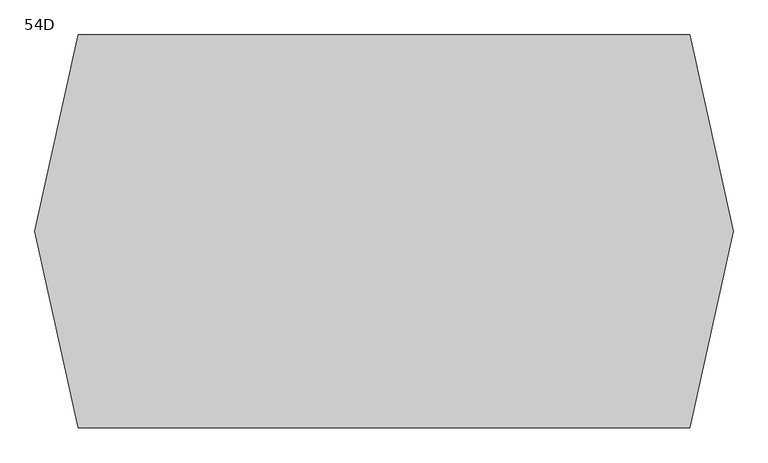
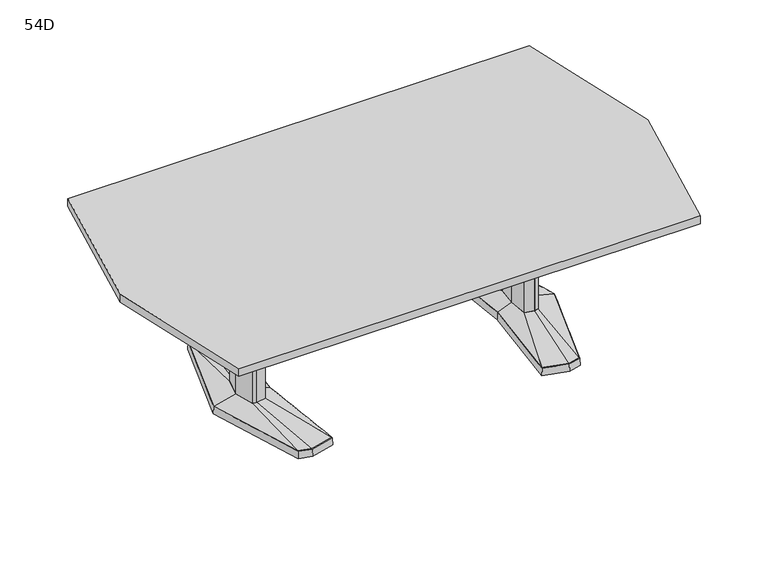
"""IFC4 building model written with IfcOpenShell, lengths in millimetres: furniture geometry, Coalesse_AM_Table_Conference_ETable2_Faceted_96in_AluminiumBase : 54D."""

import ifcopenshell
import ifcopenshell.guid

model = None  # the IFC model being written
_history = None  # IfcOwnerHistory: only IFC2X3 demands one
_inside = {}  # id of a spatial element -> (the spatial element, [elements in it])
_under = {}  # id of a project, library or spatial element -> (it, [spatial elements below it])
_declared = {}  # id of a project -> (the project, [libraries it declares])
_typed = {}  # id of a type object -> (the type object, [elements of that type])
_made_of = {}  # id of a material, layer set ... -> (it, [elements and type objects made of it])


def new_model(schema):
    """Start an empty IFC model of exactly this schema.

    Asked for "IFC4X3", IfcOpenShell would pick the latest addendum, in which some entities
    have other attributes; the version numbers below select the first issue.
    IFC2X3 requires an IfcOwnerHistory on every rooted entity: one is made here for all.
    """
    global model, _history
    if schema == "IFC4X3":
        model = ifcopenshell.file(schema_version=(4, 3, 0, 0))
    else:
        model = ifcopenshell.file(schema=schema)
    _inside.clear()
    _under.clear()
    _declared.clear()
    _typed.clear()
    _made_of.clear()
    _history = None
    if model.schema == "IFC2X3":
        org = make("IfcOrganization", Name="unknown")
        user = make(
            "IfcPersonAndOrganization",
            ThePerson=make("IfcPerson", FamilyName="unknown"),
            TheOrganization=org,
        )
        app = make(
            "IfcApplication",
            ApplicationDeveloper=org,
            Version="unknown",
            ApplicationFullName="unknown",
            ApplicationIdentifier="unknown",
        )
        _history = make(
            "IfcOwnerHistory",
            OwningUser=user,
            OwningApplication=app,
            ChangeAction="ADDED",
            CreationDate=0,
        )
    return model


def make(cls, **values):
    """One entity of the class cls with the attributes given. An attribute that is None is left unset."""
    return model.create_entity(
        cls, **{name: value for name, value in values.items() if value is not None}
    )


def rooted(cls, **values):
    """An entity with a GlobalId (a new one), such as an element, a storey or a relation."""
    return make(cls, GlobalId=ifcopenshell.guid.new(), OwnerHistory=_history, **values)


def si_unit(unit_type, name, prefix=None):
    """IfcSIUnit, for example si_unit("LENGTHUNIT", "METRE", prefix="MILLI")."""
    return make("IfcSIUnit", UnitType=unit_type, Prefix=prefix, Name=name)


def assignment(units):
    """IfcUnitAssignment: the units of a project."""
    return None if units is None else make("IfcUnitAssignment", Units=units)


def point(xyz):
    """IfcCartesianPoint."""
    return None if xyz is None else make("IfcCartesianPoint", Coordinates=xyz)


def direction(xyz):
    """IfcDirection."""
    return None if xyz is None else make("IfcDirection", DirectionRatios=xyz)


def frame(location, z_axis=None, x_axis=None):
    """IfcAxis2Placement3D, a coordinate frame: its origin and axes. An axis left out is left unset."""
    return make(
        "IfcAxis2Placement3D",
        Location=point(location),
        Axis=direction(z_axis),
        RefDirection=direction(x_axis),
    )


def origin():
    """The frame at (0, 0, 0) with its axes left unset."""
    return frame((0.0, 0.0, 0.0))


def place(relative_to, where):
    """IfcLocalPlacement: puts the frame where relative to a parent placement (None: the world)."""
    return make(
        "IfcLocalPlacement", PlacementRelTo=relative_to, RelativePlacement=where
    )


def context(
    kind, dimensions, precision=None, world=None, true_north=None, identifier=None
):
    """IfcGeometricRepresentationContext, for example the 3D "Model" context."""
    return make(
        "IfcGeometricRepresentationContext",
        ContextIdentifier=identifier,
        ContextType=kind,
        CoordinateSpaceDimension=dimensions,
        Precision=precision,
        WorldCoordinateSystem=world,
        TrueNorth=true_north,
    )


def project(units=None, contexts=None):
    """IfcProject with its units and contexts."""
    return rooted(
        "IfcProject",
        Name="project",
        RepresentationContexts=contexts,
        UnitsInContext=assignment(units),
    )


def spatial(cls, under=None, at=None, **own):
    """A site, building, storey or space (cls), placed at a placement, below another one or the project."""
    s = rooted(cls, ObjectPlacement=at, **own)
    if under is not None:
        _under.setdefault(under.id(), (under, []))[1].append(s)
    return s


def polyline(points):
    """IfcPolyline through the points."""
    return make("IfcPolyline", Points=[point(p) for p in points])


def outline(outer, holes=None, kind="AREA"):
    """IfcArbitraryClosedProfileDef: a profile drawn as a closed curve; with holes, ...WithVoids."""
    if holes is None:
        return make("IfcArbitraryClosedProfileDef", ProfileType=kind, OuterCurve=outer)
    return make(
        "IfcArbitraryProfileDefWithVoids",
        ProfileType=kind,
        OuterCurve=outer,
        InnerCurves=holes,
    )


def extrude(swept, where, along, depth):
    """IfcExtrudedAreaSolid: the profile swept, set in the frame where, extruded along a direction by depth."""
    return make(
        "IfcExtrudedAreaSolid",
        SweptArea=swept,
        Position=where,
        ExtrudedDirection=direction(along),
        Depth=depth,
    )


def faces_of(points, faces, orient=None, outer=None):
    """IfcFace entities. A face is a list of loops; a loop is a list of indices into points, from 0.

    orient and outer hold one flag for each loop. By default every Orientation is true, the
    first loop of a face is its IfcFaceOuterBound and the others are IfcFaceBound.
    """
    made = []
    for i, loops in enumerate(faces):
        bounds = []
        for j, loop in enumerate(loops):
            is_outer = j == 0 if outer is None else outer[i][j]
            bounds.append(
                make(
                    "IfcFaceOuterBound" if is_outer else "IfcFaceBound",
                    Bound=make("IfcPolyLoop", Polygon=[points[k] for k in loop]),
                    Orientation=True if orient is None else orient[i][j],
                )
            )
        made.append(make("IfcFace", Bounds=bounds))
    return made


def faceted_brep(points, faces, orient=None, outer=None, voids=None):
    """IfcFacetedBrep: a solid bounded by flat faces; with voids (closed shells), ...WithVoids."""
    shared = [point(p) for p in points]
    hull = make("IfcClosedShell", CfsFaces=faces_of(shared, faces, orient, outer))
    if voids is None:
        return make("IfcFacetedBrep", Outer=hull)
    return make(
        "IfcFacetedBrepWithVoids",
        Outer=hull,
        Voids=[
            make(cls, CfsFaces=faces_of(shared, fs, o, b)) for cls, fs, o, b in voids
        ],
    )


def shape(context_of_items, identifier, shape_type, items):
    """IfcShapeRepresentation: the items that make up one representation, for example the "Body"."""
    return make(
        "IfcShapeRepresentation",
        ContextOfItems=context_of_items,
        RepresentationIdentifier=identifier,
        RepresentationType=shape_type,
        Items=items,
    )


def source(mapping_origin, context_of_items, identifier, shape_type, items):
    """IfcRepresentationMap: a shape defined once, which mapped items show again and again."""
    return make(
        "IfcRepresentationMap",
        MappingOrigin=mapping_origin,
        MappedRepresentation=shape(context_of_items, identifier, shape_type, items),
    )


def transform(
    local_origin,
    x_axis=None,
    y_axis=None,
    z_axis=None,
    scale=None,
    scale2=None,
    scale3=None,
    uniform=True,
):
    """IfcCartesianTransformationOperator3D, or its non-uniform kind. x_axis, y_axis, z_axis: its Axis1, 2, 3."""
    if uniform:
        return make(
            "IfcCartesianTransformationOperator3D",
            Axis1=direction(x_axis),
            Axis2=direction(y_axis),
            LocalOrigin=point(local_origin),
            Scale=scale,
            Axis3=direction(z_axis),
        )
    return make(
        "IfcCartesianTransformationOperator3DnonUniform",
        Axis1=direction(x_axis),
        Axis2=direction(y_axis),
        LocalOrigin=point(local_origin),
        Scale=scale,
        Axis3=direction(z_axis),
        Scale2=scale2,
        Scale3=scale3,
    )


def mapped(mapping_source, mapping_target):
    """IfcMappedItem: shows the shape of a source again, moved by a transform."""
    return make(
        "IfcMappedItem", MappingSource=mapping_source, MappingTarget=mapping_target
    )


def made_of(thing, what):
    """Note that an element or type object is made of a material, layer set ...; save() writes the relation."""
    if what is not None:
        _made_of.setdefault(what.id(), (what, []))[1].append(thing)
    return thing


def element(
    cls,
    number,
    at=None,
    inside=None,
    cuts=None,
    type_object=None,
    material=None,
    context=None,
    identifier="Body",
    shape_type=None,
    held_by="IfcProductDefinitionShape",
    body=None,
    shapes=None,
    **own,
):
    """One element of the class cls, such as IfcWall. Its Tag is "e" and its number.

    at: its placement. inside: the storey or other place that contains it. cuts: it is an
    opening in that element (IfcRelVoidsElement). A single representation is given by context,
    identifier, shape_type and body (its items); several are given by shapes. held_by: the class
    of the entity that holds the representations. save() writes the other relations.
    """
    e = rooted(cls, Tag="e%d" % number, ObjectPlacement=at, **own)
    if body is not None:
        shapes = [shape(context, identifier, shape_type, body)]
    if shapes is not None:
        e.Representation = make(held_by, Representations=shapes)
    if inside is not None:
        _inside.setdefault(inside.id(), (inside, []))[1].append(e)
    if cuts is not None:
        rooted(
            "IfcRelVoidsElement", RelatingBuildingElement=cuts, RelatedOpeningElement=e
        )
    if type_object is not None:
        _typed.setdefault(type_object.id(), (type_object, []))[1].append(e)
    return made_of(e, material)


def aggregate(whole, parts):
    """IfcRelAggregates: a whole, such as a stair, and the parts it consists of."""
    return rooted("IfcRelAggregates", RelatingObject=whole, RelatedObjects=parts)


def save(model, path):
    """Write the relations noted so far, then the file.

    IfcRelAggregates (storeys below a building ...), IfcRelContainedInSpatialStructure (elements
    in a storey), IfcRelDefinesByType, IfcRelAssociatesMaterial and IfcRelDeclares: one each for
    every whole, place, type object, material and project.
    """
    for whole, parts in _under.values():
        aggregate(whole, parts)
    for where, things in _inside.values():
        rooted(
            "IfcRelContainedInSpatialStructure",
            RelatedElements=things,
            RelatingStructure=where,
        )
    for kind, things in _typed.values():
        rooted("IfcRelDefinesByType", RelatedObjects=things, RelatingType=kind)
    for what, things in _made_of.values():
        rooted("IfcRelAssociatesMaterial", RelatedObjects=things, RelatingMaterial=what)
    for by, libraries in _declared.values():
        rooted("IfcRelDeclares", RelatingContext=by, RelatedDefinitions=libraries)
    model.write(path)


def plane_surface(at):
    """IfcPlane: the flat surface through the origin of the frame at, square to its z axis."""
    return make("IfcPlane", Position=at)


def spline_surface(u_degree, v_degree, points, u_multiplicities, v_multiplicities, u_knots, v_knots, weights=None):
    """IfcBSplineSurfaceWithKnots; with weights, IfcRationalBSplineSurfaceWithKnots. points: one row for each step in u."""
    own = dict(
        UDegree=u_degree,
        VDegree=v_degree,
        ControlPointsList=[[point(p) for p in row] for row in points],
        SurfaceForm="UNSPECIFIED",
        UClosed=False,
        VClosed=False,
        SelfIntersect=False,
        UMultiplicities=u_multiplicities,
        VMultiplicities=v_multiplicities,
        UKnots=u_knots,
        VKnots=v_knots,
        KnotSpec="UNSPECIFIED",
    )
    if weights is None:
        return make("IfcBSplineSurfaceWithKnots", **own)
    return make("IfcRationalBSplineSurfaceWithKnots", WeightsData=weights, **own)


def advanced_brep(points, edges, surfaces, faces):
    """IfcAdvancedBrep: a solid bounded by faces that lie on surfaces and meet in shared edges.

    An edge is (start, end): straight between two places in points (the first is 0);
    or (start, end, curve); or (start, end, curve, False) where it runs against its curve.
    A face is (place in surfaces, loops), or (place, loops, False) where it looks against
    its surface's normal. A loop lists edges by number (the first is 1), with a minus sign
    where the edge is run from its end to its start. The first loop is the outer one.
    """
    corners = [point(p) for p in points]
    vertices = [make("IfcVertexPoint", VertexGeometry=c) for c in corners]
    made = []
    for start, end, *more in edges:
        made.append(
            make(
                "IfcEdgeCurve",
                EdgeStart=vertices[start],
                EdgeEnd=vertices[end],
                EdgeGeometry=more[0] if more else make("IfcPolyline", Points=[corners[start], corners[end]]),
                SameSense=more[1] if len(more) > 1 else True,
            )
        )
    hull = []
    for where, loops, *sense in faces:
        bounds = []
        for j, loop in enumerate(loops):
            ring = [make("IfcOrientedEdge", EdgeElement=made[abs(k) - 1], Orientation=k > 0) for k in loop]
            bounds.append(
                make(
                    "IfcFaceOuterBound" if j == 0 else "IfcFaceBound",
                    Bound=make("IfcEdgeLoop", EdgeList=ring),
                    Orientation=True,
                )
            )
        hull.append(make("IfcAdvancedFace", Bounds=bounds, FaceSurface=surfaces[where], SameSense=sense[0] if sense else True))
    return make("IfcAdvancedBrep", Outer=make("IfcClosedShell", CfsFaces=hull))


def furniture_54d_cd79a7e8(model_context):
    return source(origin(), model_context, "Body", "SolidModel", [
        faceted_brep([(594.6806835, 455.5848221, 38.1), (485.1031277, 426.2263816, 38.1), (526.2663717, 0.0, 38.1), (485.1031277, -426.2263816, 38.1), (594.6806835, -455.5848221, 38.1), (650.8070396, -440.5478297, 38.1), (788.1184269, 0.0, 38.1), (650.8070396, 440.5478297, 38.1), (594.6806754, 457.2283104, 3.175), (652.0624472, 441.8549756, 3.175), (789.78125, 0.0, 3.175), (652.0624472, -441.8549756, 3.175), (594.6806754, -457.2283104, 3.175), (483.39375, -427.4118891, 3.175), (524.6714856, 0.0, 3.175), (483.39375, 427.4118891, 3.175), (598.270115, 428.3273875, 3.175), (493.2218228, 402.1057253, 3.175), (501.340518, 377.985069, 3.175), (601.8595466, 401.0699529, 3.175), (652.4191725, 387.524361, 3.175), (651.6131061, 414.0360954, 3.175), (598.270115, -428.3273875, 3.175), (651.6131061, -414.0360954, 3.175), (652.4191725, -387.524361, 3.175), (601.8595466, -401.0699529, 3.175), (501.340518, -377.985069, 3.175), (493.2218228, -402.1057253, 3.175), (724.8653621, 0.0, 3.175), (692.5959611, 120.4193755, 3.175), (643.9487222, 133.471665, 3.175), (564.0680526, 119.4176561, 3.175), (552.9368466, 0.0, 3.175), (564.0680526, -119.4176561, 3.175), (643.9487222, -133.471665, 3.175), (692.5959611, -120.4193755, 3.175), (598.270115, 428.3273875, 0.0), (651.6131061, 414.0360954, 0.0), (652.4191725, 387.524361, 0.0), (601.8595466, 401.0699529, 0.0), (501.340518, 377.985069, 0.0), (493.2218228, 402.1057253, 0.0), (598.270115, -428.3273875, 0.0), (493.2218228, -402.1057253, 0.0), (501.340518, -377.985069, 0.0), (601.8595466, -401.0699529, 0.0), (652.4191725, -387.524361, 0.0), (651.6131061, -414.0360954, 0.0), (724.8653621, 0.0, 0.0), (692.5959611, -120.4193755, 0.0), (643.9487222, -133.471665, 0.0), (564.0680526, -119.4176561, 0.0), (552.9368466, 0.0, 0.0), (564.0680526, 119.4176561, 0.0), (643.9487222, 133.471665, 0.0), (692.5959611, 120.4193755, 0.0)], [[[0, 1, 2, 3, 4, 5, 6, 7]], [[8, 9, 10, 11, 12, 13, 14, 15], [16, 17, 18, 19, 20, 21], [22, 23, 24, 25, 26, 27], [28, 29, 30, 31, 32, 33, 34, 35]], [[7, 9, 8, 0]], [[6, 10, 9, 7]], [[5, 11, 10, 6]], [[4, 12, 11, 5]], [[3, 13, 12, 4]], [[2, 14, 13, 3]], [[1, 15, 14, 2]], [[0, 8, 15, 1]], [[36, 37, 38, 39, 40, 41]], [[42, 43, 44, 45, 46, 47]], [[48, 49, 50, 51, 52, 53, 54, 55]], [[36, 16, 21, 37]], [[37, 21, 20, 38]], [[38, 20, 19, 39]], [[39, 19, 18, 40]], [[40, 18, 17, 41]], [[41, 17, 16, 36]], [[42, 22, 27, 43]], [[43, 27, 26, 44]], [[44, 26, 25, 45]], [[45, 25, 24, 46]], [[46, 24, 23, 47]], [[47, 23, 22, 42]], [[48, 28, 35, 49]], [[49, 35, 34, 50]], [[50, 34, 33, 51]], [[51, 33, 32, 52]], [[52, 32, 31, 53]], [[53, 31, 30, 54]], [[54, 30, 29, 55]], [[55, 29, 28, 48]]]),
        faceted_brep([(685.4210836, 0.0, 698.5), (661.4858546, 89.3188359, 698.5), (644.6324984, 93.8406728, 698.5), (642.2326511, 94.4845635, 698.5), (599.305146, 86.9320037, 698.5), (591.2020056, 0.0, 698.5), (599.305146, -86.9320037, 698.5), (642.2326511, -94.4845635, 698.5), (644.6324984, -93.8406728, 698.5), (661.4858546, -89.3188359, 698.5), (685.4210836, 0.0, 63.5), (661.4858546, -89.3188359, 63.5), (644.6324984, -93.8406728, 63.5), (642.2326511, -94.4845635, 63.5), (599.305146, -86.9320037, 63.5), (591.2020056, 0.0, 63.5), (599.305146, 86.9320037, 63.5), (642.2326511, 94.4845635, 63.5), (644.6324984, 93.8406728, 63.5), (661.4858546, 89.3188359, 63.5)], [[[0, 1, 2, 3, 4, 5, 6, 7, 8, 9]], [[10, 11, 12, 13, 14, 15, 16, 17, 18, 19]], [[9, 11, 10, 0]], [[8, 12, 11, 9]], [[7, 13, 12, 8]], [[6, 14, 13, 7]], [[5, 15, 14, 6]], [[4, 16, 15, 5]], [[3, 17, 16, 4]], [[2, 18, 17, 3]], [[1, 19, 18, 2]], [[0, 10, 19, 1]]]),
        advanced_brep(
        [(642.2326511, 94.4845635, 63.5), (599.305146, 86.9320037, 63.5), (591.2020056, 0.0, 63.5), (599.305146, -86.9320037, 63.5), (642.2326511, -94.4845635, 63.5), (661.4858546, -89.3188359, 63.5), (685.4210836, 0.0, 63.5), (661.4858546, 89.3188359, 63.5), (594.6806835, 455.5848221, 38.1), (650.8070396, 440.5478297, 38.1), (788.1184269, 0.0, 38.1), (650.8070396, -440.5478297, 38.1), (594.6806835, -455.5848221, 38.1), (485.1031277, -426.2263816, 38.1), (526.2663717, 0.0, 38.1), (485.1031277, 426.2263816, 38.1)],
        [
            (0, 1),
            (1, 2),
            (2, 3),
            (3, 4),
            (4, 5),
            (5, 6),
            (6, 7),
            (7, 0),
            (8, 9),
            (9, 10),
            (10, 11),
            (11, 12),
            (12, 13),
            (13, 14),
            (14, 15),
            (15, 8),
            (8, 0),
            (7, 9),
            (6, 10),
            (5, 11),
            (4, 12),
            (3, 13),
            (2, 14),
            (1, 15),
        ],
        [
            plane_surface(frame((635.3337991, 0.0, 63.5), z_axis=(0.0, 0.0, 1.0), x_axis=(-0.25884244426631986, -0.9659195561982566, 0.0))),
            plane_surface(frame((596.9458125, 0.0, 38.1), z_axis=(0.0, 0.0, -1.0), x_axis=(-0.25884244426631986, -0.9659195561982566, 0.0))),
            spline_surface(1, 1, [[(594.6806835, 455.5848221, 38.1), (650.8070396, 440.5478297, 38.1)], [(642.2326511, 94.4845635, 63.5), (661.4858546, 89.3188359, 63.5)]], [2, 2], [2, 2], [0.0, 1.0], [0.0, 1.0]),
            spline_surface(1, 1, [[(650.8070396, 440.5478297, 38.1), (788.1184269, 0.0, 38.1)], [(661.4858546, 89.3188359, 63.5), (685.4210836, 0.0, 63.5)]], [2, 2], [2, 2], [0.0, 1.0], [0.0, 1.0]),
            spline_surface(1, 1, [[(788.1184269, 0.0, 38.1), (650.8070396, -440.5478297, 38.1)], [(685.4210836, 0.0, 63.5), (661.4858546, -89.3188359, 63.5)]], [2, 2], [2, 2], [0.0, 1.0], [0.0, 1.0]),
            spline_surface(1, 1, [[(650.8070396, -440.5478297, 38.1), (594.6806835, -455.5848221, 38.1)], [(661.4858546, -89.3188359, 63.5), (642.2326511, -94.4845635, 63.5)]], [2, 2], [2, 2], [0.0, 1.0], [0.0, 1.0]),
            spline_surface(1, 1, [[(594.6806835, -455.5848221, 38.1), (485.1031277, -426.2263816, 38.1)], [(642.2326511, -94.4845635, 63.5), (599.305146, -86.9320037, 63.5)]], [2, 2], [2, 2], [0.0, 1.0], [0.0, 1.0]),
            spline_surface(1, 1, [[(485.1031277, -426.2263816, 38.1), (526.2663717, 0.0, 38.1)], [(599.305146, -86.9320037, 63.5), (591.2020056, 0.0, 63.5)]], [2, 2], [2, 2], [0.0, 1.0], [0.0, 1.0]),
            spline_surface(1, 1, [[(526.2663717, 0.0, 38.1), (485.1031277, 426.2263816, 38.1)], [(591.2020056, 0.0, 63.5), (599.305146, 86.9320037, 63.5)]], [2, 2], [2, 2], [0.0, 1.0], [0.0, 1.0]),
            spline_surface(1, 1, [[(485.1031277, 426.2263816, 38.1), (594.6806835, 455.5848221, 38.1)], [(599.305146, 86.9320037, 63.5), (642.2326511, 94.4845635, 63.5)]], [2, 2], [2, 2], [0.0, 1.0], [0.0, 1.0]),
        ],
        [
            (0, [[1, 2, 3, 4, 5, 6, 7, 8]]),
            (1, [[9, 10, 11, 12, 13, 14, 15, 16]]),
            (2, [[17, -8, 18, -9]]),
            (3, [[-18, -7, 19, -10]]),
            (4, [[-19, -6, 20, -11]]),
            (5, [[-20, -5, 21, -12]]),
            (6, [[-21, -4, 22, -13]]),
            (7, [[-22, -3, 23, -14]]),
            (8, [[-23, -2, 24, -15]]),
            (9, [[-24, -1, -17, -16]]),
        ],
    ),
        faceted_brep([(-594.6806835, 455.5848221, 38.1), (-650.8070396, 440.5478297, 38.1), (-788.1184269, 0.0, 38.1), (-650.8070396, -440.5478297, 38.1), (-594.6806835, -455.5848221, 38.1), (-485.1031277, -426.2263816, 38.1), (-526.2663717, 0.0, 38.1), (-485.1031277, 426.2263816, 38.1), (-594.6806754, 457.2283104, 3.175), (-483.39375, 427.4118891, 3.175), (-524.6714856, 0.0, 3.175), (-483.39375, -427.4118891, 3.175), (-594.6806754, -457.2283104, 3.175), (-652.0624472, -441.8549756, 3.175), (-789.78125, 0.0, 3.175), (-652.0624472, 441.8549756, 3.175), (-598.270115, 428.3273875, 3.175), (-651.6131061, 414.0360954, 3.175), (-652.4191725, 387.524361, 3.175), (-601.8595466, 401.0699529, 3.175), (-501.340518, 377.985069, 3.175), (-493.2218228, 402.1057253, 3.175), (-598.270115, -428.3273875, 3.175), (-493.2218228, -402.1057253, 3.175), (-501.340518, -377.985069, 3.175), (-601.8595466, -401.0699529, 3.175), (-652.4191725, -387.524361, 3.175), (-651.6131061, -414.0360954, 3.175), (-724.8653621, 0.0, 3.175), (-692.5959611, -120.4193755, 3.175), (-643.9487222, -133.471665, 3.175), (-564.0680526, -119.4176561, 3.175), (-552.9368466, 0.0, 3.175), (-564.0680526, 119.4176561, 3.175), (-643.9487222, 133.471665, 3.175), (-692.5959611, 120.4193755, 3.175), (-598.270115, 428.3273875, 0.0), (-493.2218228, 402.1057253, 0.0), (-501.340518, 377.985069, 0.0), (-601.8595466, 401.0699529, 0.0), (-652.4191725, 387.524361, 0.0), (-651.6131061, 414.0360954, 0.0), (-598.270115, -428.3273875, 0.0), (-651.6131061, -414.0360954, 0.0), (-652.4191725, -387.524361, 0.0), (-601.8595466, -401.0699529, 0.0), (-501.340518, -377.985069, 0.0), (-493.2218228, -402.1057253, 0.0), (-724.8653621, 0.0, 0.0), (-692.5959611, 120.4193755, 0.0), (-643.9487222, 133.471665, 0.0), (-564.0680526, 119.4176561, 0.0), (-552.9368466, 0.0, 0.0), (-564.0680526, -119.4176561, 0.0), (-643.9487222, -133.471665, 0.0), (-692.5959611, -120.4193755, 0.0)], [[[0, 1, 2, 3, 4, 5, 6, 7]], [[8, 9, 10, 11, 12, 13, 14, 15], [16, 17, 18, 19, 20, 21], [22, 23, 24, 25, 26, 27], [28, 29, 30, 31, 32, 33, 34, 35]], [[1, 0, 8, 15]], [[2, 1, 15, 14]], [[3, 2, 14, 13]], [[4, 3, 13, 12]], [[5, 4, 12, 11]], [[6, 5, 11, 10]], [[7, 6, 10, 9]], [[0, 7, 9, 8]], [[36, 37, 38, 39, 40, 41]], [[42, 43, 44, 45, 46, 47]], [[48, 49, 50, 51, 52, 53, 54, 55]], [[36, 41, 17, 16]], [[41, 40, 18, 17]], [[40, 39, 19, 18]], [[39, 38, 20, 19]], [[38, 37, 21, 20]], [[37, 36, 16, 21]], [[42, 47, 23, 22]], [[47, 46, 24, 23]], [[46, 45, 25, 24]], [[45, 44, 26, 25]], [[44, 43, 27, 26]], [[43, 42, 22, 27]], [[48, 55, 29, 28]], [[55, 54, 30, 29]], [[54, 53, 31, 30]], [[53, 52, 32, 31]], [[52, 51, 33, 32]], [[51, 50, 34, 33]], [[50, 49, 35, 34]], [[49, 48, 28, 35]]]),
        faceted_brep([(-685.4210836, 0.0, 698.5), (-661.4858546, -89.3188359, 698.5), (-644.6324984, -93.8406728, 698.5), (-642.2326511, -94.4845635, 698.5), (-599.305146, -86.9320037, 698.5), (-591.2020056, 0.0, 698.5), (-599.305146, 86.9320037, 698.5), (-642.2326511, 94.4845635, 698.5), (-644.6324984, 93.8406728, 698.5), (-661.4858546, 89.3188359, 698.5), (-685.4210836, 0.0, 63.5), (-661.4858546, 89.3188359, 63.5), (-644.6324984, 93.8406728, 63.5), (-642.2326511, 94.4845635, 63.5), (-599.305146, 86.9320037, 63.5), (-591.2020056, 0.0, 63.5), (-599.305146, -86.9320037, 63.5), (-642.2326511, -94.4845635, 63.5), (-644.6324984, -93.8406728, 63.5), (-661.4858546, -89.3188359, 63.5)], [[[0, 1, 2, 3, 4, 5, 6, 7, 8, 9]], [[10, 11, 12, 13, 14, 15, 16, 17, 18, 19]], [[1, 0, 10, 19]], [[2, 1, 19, 18]], [[3, 2, 18, 17]], [[4, 3, 17, 16]], [[5, 4, 16, 15]], [[6, 5, 15, 14]], [[7, 6, 14, 13]], [[8, 7, 13, 12]], [[9, 8, 12, 11]], [[0, 9, 11, 10]]]),
        advanced_brep(
        [(-642.2326511, 94.4845635, 63.5), (-661.4858546, 89.3188359, 63.5), (-685.4210836, 0.0, 63.5), (-661.4858546, -89.3188359, 63.5), (-642.2326511, -94.4845635, 63.5), (-599.305146, -86.9320037, 63.5), (-591.2020056, 0.0, 63.5), (-599.305146, 86.9320037, 63.5), (-594.6806835, 455.5848221, 38.1), (-485.1031277, 426.2263816, 38.1), (-526.2663717, 0.0, 38.1), (-485.1031277, -426.2263816, 38.1), (-594.6806835, -455.5848221, 38.1), (-650.8070396, -440.5478297, 38.1), (-788.1184269, 0.0, 38.1), (-650.8070396, 440.5478297, 38.1)],
        [
            (0, 1),
            (1, 2),
            (2, 3),
            (3, 4),
            (4, 5),
            (5, 6),
            (6, 7),
            (7, 0),
            (8, 9),
            (9, 10),
            (10, 11),
            (11, 12),
            (12, 13),
            (13, 14),
            (14, 15),
            (15, 8),
            (15, 1),
            (0, 8),
            (14, 2),
            (13, 3),
            (12, 4),
            (11, 5),
            (10, 6),
            (9, 7),
        ],
        [
            plane_surface(frame((-635.3337991, 0.0, 63.5), z_axis=(0.0, 0.0, 1.0), x_axis=(0.25884244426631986, -0.9659195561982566, 0.0))),
            plane_surface(frame((-596.9458125, 0.0, 38.1), z_axis=(0.0, 0.0, -1.0), x_axis=(0.25884244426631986, -0.9659195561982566, 0.0))),
            spline_surface(1, 1, [[(-594.6806835, 455.5848221, 38.1), (-642.2326511, 94.4845635, 63.5)], [(-650.8070396, 440.5478297, 38.1), (-661.4858546, 89.3188359, 63.5)]], [2, 2], [2, 2], [0.0, 1.0], [0.0, 1.0]),
            spline_surface(1, 1, [[(-650.8070396, 440.5478297, 38.1), (-661.4858546, 89.3188359, 63.5)], [(-788.1184269, 0.0, 38.1), (-685.4210836, 0.0, 63.5)]], [2, 2], [2, 2], [0.0, 1.0], [0.0, 1.0]),
            spline_surface(1, 1, [[(-788.1184269, 0.0, 38.1), (-685.4210836, 0.0, 63.5)], [(-650.8070396, -440.5478297, 38.1), (-661.4858546, -89.3188359, 63.5)]], [2, 2], [2, 2], [0.0, 1.0], [0.0, 1.0]),
            spline_surface(1, 1, [[(-650.8070396, -440.5478297, 38.1), (-661.4858546, -89.3188359, 63.5)], [(-594.6806835, -455.5848221, 38.1), (-642.2326511, -94.4845635, 63.5)]], [2, 2], [2, 2], [0.0, 1.0], [0.0, 1.0]),
            spline_surface(1, 1, [[(-594.6806835, -455.5848221, 38.1), (-642.2326511, -94.4845635, 63.5)], [(-485.1031277, -426.2263816, 38.1), (-599.305146, -86.9320037, 63.5)]], [2, 2], [2, 2], [0.0, 1.0], [0.0, 1.0]),
            spline_surface(1, 1, [[(-485.1031277, -426.2263816, 38.1), (-599.305146, -86.9320037, 63.5)], [(-526.2663717, 0.0, 38.1), (-591.2020056, 0.0, 63.5)]], [2, 2], [2, 2], [0.0, 1.0], [0.0, 1.0]),
            spline_surface(1, 1, [[(-526.2663717, 0.0, 38.1), (-591.2020056, 0.0, 63.5)], [(-485.1031277, 426.2263816, 38.1), (-599.305146, 86.9320037, 63.5)]], [2, 2], [2, 2], [0.0, 1.0], [0.0, 1.0]),
            spline_surface(1, 1, [[(-485.1031277, 426.2263816, 38.1), (-599.305146, 86.9320037, 63.5)], [(-594.6806835, 455.5848221, 38.1), (-642.2326511, 94.4845635, 63.5)]], [2, 2], [2, 2], [0.0, 1.0], [0.0, 1.0]),
        ],
        [
            (0, [[1, 2, 3, 4, 5, 6, 7, 8]]),
            (1, [[9, 10, 11, 12, 13, 14, 15, 16]]),
            (2, [[-16, 17, -1, 18]]),
            (3, [[-15, 19, -2, -17]]),
            (4, [[-14, 20, -3, -19]]),
            (5, [[-13, 21, -4, -20]]),
            (6, [[-12, 22, -5, -21]]),
            (7, [[-11, 23, -6, -22]]),
            (8, [[-10, 24, -7, -23]]),
            (9, [[-9, -18, -8, -24]]),
        ],
    ),
        extrude(outline(polyline([(96.8375, 698.5), (103.1875, 698.5), (103.1875, 476.25), (-103.1875, 476.25), (-103.1875, 698.5), (-96.8375, 698.5), (-96.8375, 482.6), (96.8375, 482.6), (96.8375, 698.5)])), frame((-597.9364207, 0.0, 0.0), z_axis=(1.0, 0.0, 0.0), x_axis=(0.0, 1.0, 0.0)), (0.0, 0.0, 1.0), 1195.8728415),
        extrude(outline(polyline([(1067.1609518, 685.8), (1219.2, 0.0), (1067.1609518, -685.8), (-1067.1609518, -685.8), (-1219.2, 0.0), (-1067.1609518, 685.8), (1067.1609518, 685.8)])), frame((0.0, 0.0, 698.5), z_axis=(0.0, 0.0, 1.0), x_axis=(1.0, 0.0, 0.0)), (0.0, 0.0, 1.0), 38.1),
    ])


if __name__ == "__main__":
    model = new_model("IFC4")
    model_context = context("Model", 3, world=origin())
    ifc_project = project(units=[si_unit("LENGTHUNIT", "METRE", prefix="MILLI")], contexts=[model_context])
    site = spatial("IfcSite", under=ifc_project)
    building = spatial("IfcBuilding", under=site)
    placement = place(None, origin())
    furniture_54d_shape = furniture_54d_cd79a7e8(model_context)
    element("IfcFurniture", 1, ObjectType="Coalesse_AM_Table_Conference_ETable2_Faceted_96in_AluminiumBase : 54D", at=placement, inside=building, context=model_context, shape_type="MappedRepresentation", body=[
        mapped(furniture_54d_shape, transform((0.0, 0.0, 0.0), x_axis=(1.0, 0.0, 0.0), y_axis=(0.0, 1.0, 0.0), z_axis=(0.0, 0.0, 1.0))),
    ])
    save(model, "model.ifc")
